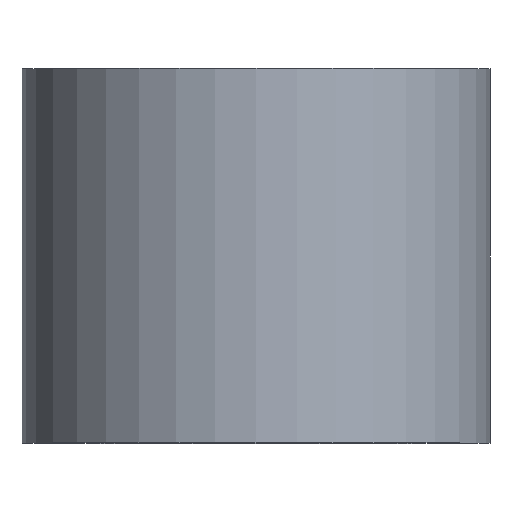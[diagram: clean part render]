
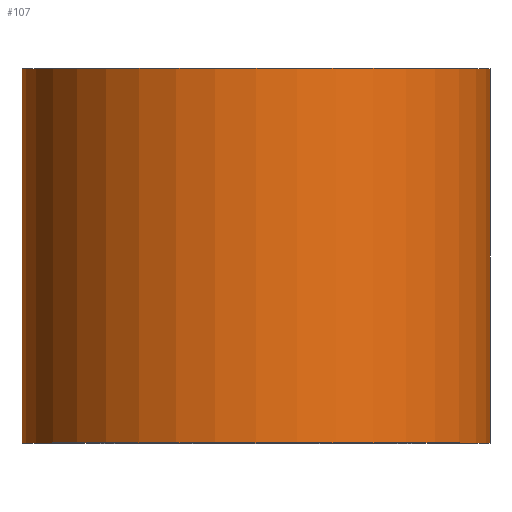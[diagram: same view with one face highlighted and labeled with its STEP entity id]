
A CAD part, top view. The second image highlights one B-rep face of the part: STEP entity #107.
In plain terms, the highlighted cylindrical face has radius 7.5 mm (diameter 15 mm), a partial arc.
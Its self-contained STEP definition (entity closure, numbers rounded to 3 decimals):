
#20 = CARTESIAN_POINT ( 'NONE',  ( -7.5, 0., 0. ) ) ;
#31 = DIRECTION ( 'NONE',  ( 0., 1., 0. ) ) ;
#32 = CARTESIAN_POINT ( 'NONE',  ( 7.5, 0., 0. ) ) ;
#34 = DIRECTION ( 'NONE',  ( -1., 0., 0. ) ) ;
#42 = LINE ( 'NONE', #32, #155 ) ;
#55 = DIRECTION ( 'NONE',  ( -1., 0., 0. ) ) ;
#56 = ORIENTED_EDGE ( 'NONE', *, *, #145, .T. ) ;
#58 = DIRECTION ( 'NONE',  ( 0., 1., 0. ) ) ;
#68 = VERTEX_POINT ( 'NONE', #77 ) ;
#77 = CARTESIAN_POINT ( 'NONE',  ( 7.5, 0., 0. ) ) ;
#80 = VERTEX_POINT ( 'NONE', #169 ) ;
#83 = CARTESIAN_POINT ( 'NONE',  ( 0., 0., 0. ) ) ;
#92 = ORIENTED_EDGE ( 'NONE', *, *, #130, .T. ) ;
#93 = AXIS2_PLACEMENT_3D ( 'NONE', #174, #192, #55 ) ;
#97 = CARTESIAN_POINT ( 'NONE',  ( -7.5, 0., 0. ) ) ;
#104 = CARTESIAN_POINT ( 'NONE',  ( 0., 12., 0. ) ) ;
#107 = ADVANCED_FACE ( 'NONE', ( #170 ), #223, .T. ) ;
#108 = CIRCLE ( 'NONE', #93, 7.5 ) ;
#116 = ORIENTED_EDGE ( 'NONE', *, *, #273, .F. ) ;
#121 = CARTESIAN_POINT ( 'NONE',  ( 7.5, 12., 0. ) ) ;
#130 = EDGE_CURVE ( 'NONE', #68, #234, #42, .T. ) ;
#138 = EDGE_CURVE ( 'NONE', #80, #234, #274, .T. ) ;
#145 = EDGE_CURVE ( 'NONE', #162, #68, #108, .T. ) ;
#155 = VECTOR ( 'NONE', #267, 1000. ) ;
#162 = VERTEX_POINT ( 'NONE', #20 ) ;
#169 = CARTESIAN_POINT ( 'NONE',  ( -7.5, 12., 0. ) ) ;
#170 = FACE_OUTER_BOUND ( 'NONE', #275, .T. ) ;
#174 = CARTESIAN_POINT ( 'NONE',  ( 0., 0., 0. ) ) ;
#178 = AXIS2_PLACEMENT_3D ( 'NONE', #104, #31, #266 ) ;
#186 = VECTOR ( 'NONE', #238, 1000. ) ;
#192 = DIRECTION ( 'NONE',  ( 0., 1., 0. ) ) ;
#198 = AXIS2_PLACEMENT_3D ( 'NONE', #83, #58, #34 ) ;
#216 = ORIENTED_EDGE ( 'NONE', *, *, #138, .F. ) ;
#223 = CYLINDRICAL_SURFACE ( 'NONE', #198, 7.5 ) ;
#234 = VERTEX_POINT ( 'NONE', #121 ) ;
#238 = DIRECTION ( 'NONE',  ( 0., 1., 0. ) ) ;
#266 = DIRECTION ( 'NONE',  ( -1., 0., 0. ) ) ;
#267 = DIRECTION ( 'NONE',  ( 0., 1., 0. ) ) ;
#273 = EDGE_CURVE ( 'NONE', #162, #80, #297, .T. ) ;
#274 = CIRCLE ( 'NONE', #178, 7.5 ) ;
#275 = EDGE_LOOP ( 'NONE', ( #56, #92, #216, #116 ) ) ;
#297 = LINE ( 'NONE', #97, #186 ) ;
